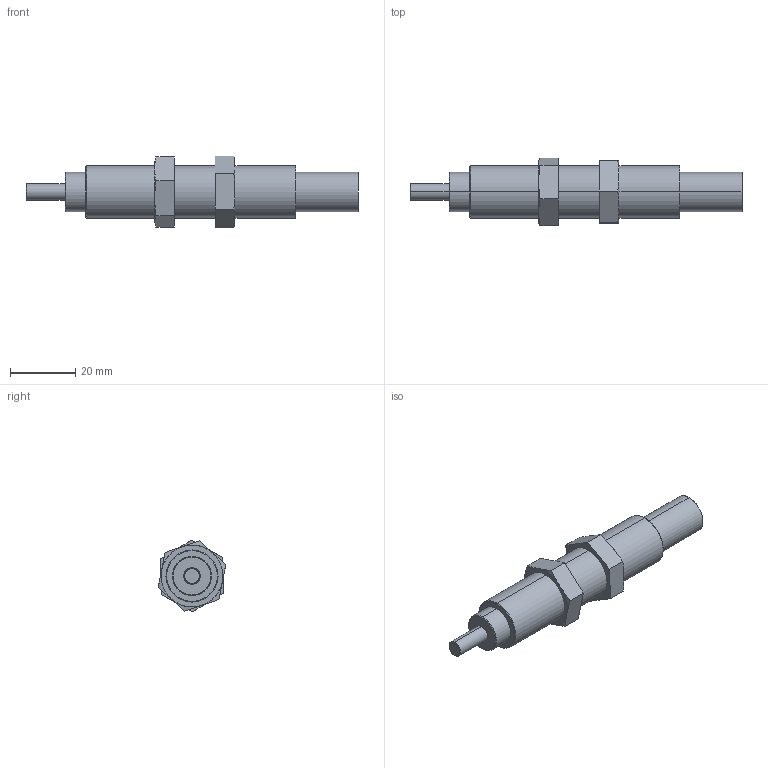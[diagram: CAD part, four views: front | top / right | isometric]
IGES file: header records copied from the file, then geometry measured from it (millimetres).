
Start section: SolidWorks IGES file using analytic representation for surfaces
Global section: file name: C:\Users\Sam Lin\Desktop\48\FSA-1612BB(CD).IGS; native system: SolidWorks 2013; preprocessor: SolidWorks 2013; author: Sam Lin; date: 160317.153142; units: metre
Bounding box: 102 x 20.79 x 21.93 mm (x, y, z)
Surface area: 6693.6 mm2 (no closed solid volume)
Topology: 0 solids, 0 shells, 53 faces, 812 edges, 812 vertices
Faces by surface type: bspline 33, revolution 20
